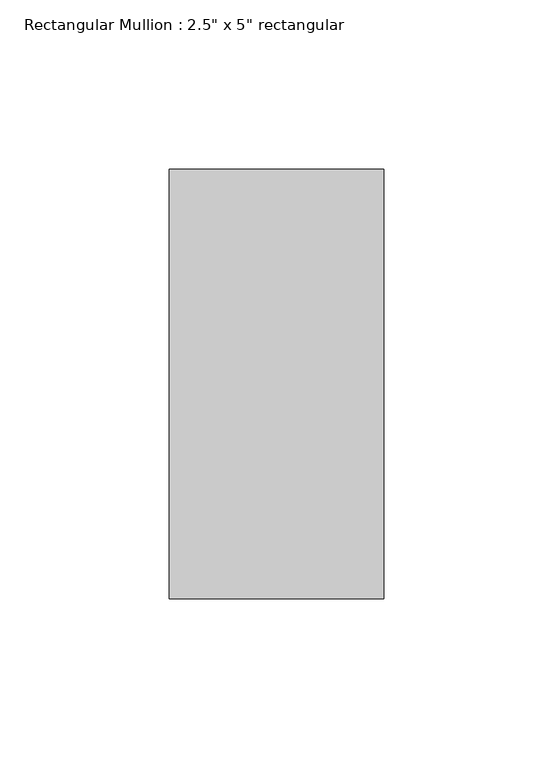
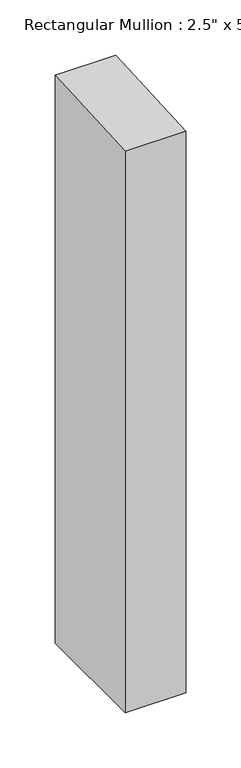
"""IFC4 building model written with IfcOpenShell, lengths in millimetres: member geometry."""

from ifc_helpers import new_model, si_unit, frame, origin, place, context, project, spatial, polyline, outline, extrude, source, transform, mapped, element, save


def member_340acb32(model_context):
    return source(origin(), model_context, "Body", "SweptSolid", [
        extrude(outline(polyline([(-63.5, -3.7401328), (63.5, 3.7401328), (63.5, -625.9387085), (-63.5, -625.9387085), (-63.5, -3.7401328)])), frame((-31.75, 0.0, 0.0), z_axis=(1.0, 0.0, 0.0), x_axis=(0.0, 1.0, 0.0)), (0.0, 0.0, 1.0), 63.5),
    ])


if __name__ == "__main__":
    model = new_model("IFC4")
    model_context = context("Model", 3, world=origin())
    ifc_project = project(units=[si_unit("LENGTHUNIT", "METRE", prefix="MILLI")], contexts=[model_context])
    site = spatial("IfcSite", under=ifc_project)
    building = spatial("IfcBuilding", under=site)
    placement = place(None, origin())
    member_shape = member_340acb32(model_context)
    element("IfcMember", 1, ObjectType="Rectangular Mullion : 2.5\" x 5\" rectangular", at=placement, inside=building, context=model_context, shape_type="MappedRepresentation", body=[
        mapped(member_shape, transform((0.0, 0.0, 0.0), x_axis=(1.0, 0.0, 0.0), y_axis=(0.0, 1.0, 0.0), z_axis=(0.0, 0.0, 1.0))),
    ])
    save(model, "model.ifc")
